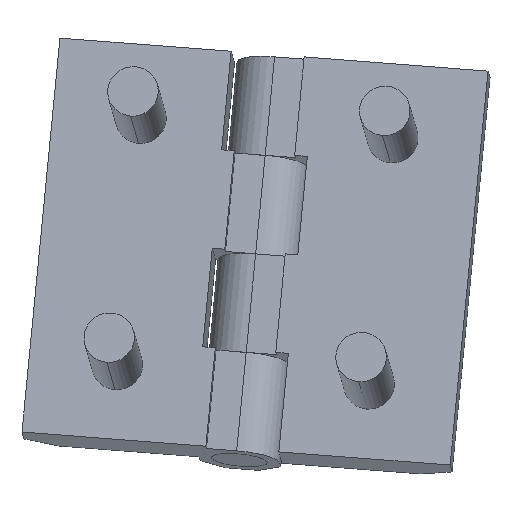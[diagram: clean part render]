
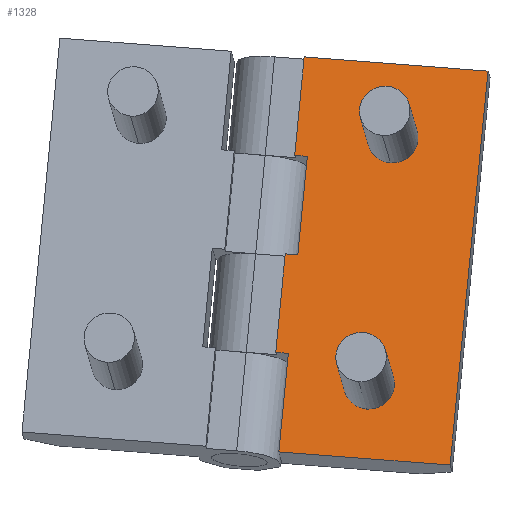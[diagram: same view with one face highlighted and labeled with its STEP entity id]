
A CAD part, front view. The second image highlights one B-rep face of the part: STEP entity #1328.
In plain terms, the highlighted planar face has unit normal (-0.066, -0.972, 0.225) as drawn and (0, -1, 0) by its records, which use the part's own axes.
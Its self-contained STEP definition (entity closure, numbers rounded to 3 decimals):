
#14 = ORIENTED_EDGE ( 'NONE', *, *, #904, .F. ) ;
#26 = CARTESIAN_POINT ( 'NONE',  ( -20.78, -2.923, -30. ) ) ;
#49 = CARTESIAN_POINT ( 'NONE',  ( -12.03, -2.923, -22.5 ) ) ;
#60 = VERTEX_POINT ( 'NONE', #523 ) ;
#65 = FACE_BOUND ( 'NONE', #68, .T. ) ;
#68 = EDGE_LOOP ( 'NONE', ( #533, #1102 ) ) ;
#80 = CARTESIAN_POINT ( 'NONE',  ( -2.53, -2.923, 10. ) ) ;
#95 = LINE ( 'NONE', #578, #787 ) ;
#100 = CARTESIAN_POINT ( 'NONE',  ( -3.78, -2.923, 10. ) ) ;
#107 = LINE ( 'NONE', #698, #396 ) ;
#108 = CARTESIAN_POINT ( 'NONE',  ( -12.03, -2.923, 2.5 ) ) ;
#111 = VERTEX_POINT ( 'NONE', #26 ) ;
#128 = CARTESIAN_POINT ( 'NONE',  ( -20.78, -2.923, 10. ) ) ;
#140 = VECTOR ( 'NONE', #1101, 1000. ) ;
#177 = DIRECTION ( 'NONE',  ( 0., 0., -1. ) ) ;
#186 = VERTEX_POINT ( 'NONE', #1423 ) ;
#194 = VECTOR ( 'NONE', #659, 1000. ) ;
#197 = VERTEX_POINT ( 'NONE', #794 ) ;
#199 = VERTEX_POINT ( 'NONE', #819 ) ;
#210 = DIRECTION ( 'NONE',  ( 0., 0., -1. ) ) ;
#245 = LINE ( 'NONE', #1228, #451 ) ;
#249 = VERTEX_POINT ( 'NONE', #694 ) ;
#261 = VERTEX_POINT ( 'NONE', #1532 ) ;
#310 = DIRECTION ( 'NONE',  ( 1., 0., 0. ) ) ;
#355 = ORIENTED_EDGE ( 'NONE', *, *, #1198, .F. ) ;
#378 = EDGE_LOOP ( 'NONE', ( #986, #1393, #1502, #1598, #355, #463, #392, #1473, #410, #14 ) ) ;
#392 = ORIENTED_EDGE ( 'NONE', *, *, #964, .T. ) ;
#396 = VECTOR ( 'NONE', #713, 1000. ) ;
#410 = ORIENTED_EDGE ( 'NONE', *, *, #879, .F. ) ;
#448 = EDGE_CURVE ( 'NONE', #898, #1146, #888, .T. ) ;
#451 = VECTOR ( 'NONE', #900, 1000. ) ;
#452 = LINE ( 'NONE', #1043, #1169 ) ;
#460 = CARTESIAN_POINT ( 'NONE',  ( -3.78, -2.923, 10. ) ) ;
#463 = ORIENTED_EDGE ( 'NONE', *, *, #857, .F. ) ;
#464 = LINE ( 'NONE', #128, #140 ) ;
#501 = AXIS2_PLACEMENT_3D ( 'NONE', #1522, #1052, #1547 ) ;
#523 = CARTESIAN_POINT ( 'NONE',  ( -2.53, -2.923, -10. ) ) ;
#533 = ORIENTED_EDGE ( 'NONE', *, *, #835, .F. ) ;
#540 = EDGE_CURVE ( 'NONE', #199, #261, #1141, .T. ) ;
#557 = CIRCLE ( 'NONE', #1274, 2.5 ) ;
#575 = DIRECTION ( 'NONE',  ( 0., -1., 0. ) ) ;
#578 = CARTESIAN_POINT ( 'NONE',  ( -3.78, -2.923, -20. ) ) ;
#581 = VECTOR ( 'NONE', #1432, 1000. ) ;
#588 = CARTESIAN_POINT ( 'NONE',  ( -2.53, -2.923, 10. ) ) ;
#621 = VERTEX_POINT ( 'NONE', #1347 ) ;
#635 = CARTESIAN_POINT ( 'NONE',  ( -12.03, -2.923, -22.5 ) ) ;
#659 = DIRECTION ( 'NONE',  ( 0., 0., -1. ) ) ;
#680 = VERTEX_POINT ( 'NONE', #921 ) ;
#685 = AXIS2_PLACEMENT_3D ( 'NONE', #80, #575, #210 ) ;
#691 = ORIENTED_EDGE ( 'NONE', *, *, #448, .F. ) ;
#694 = CARTESIAN_POINT ( 'NONE',  ( -3.78, -2.923, -10. ) ) ;
#698 = CARTESIAN_POINT ( 'NONE',  ( -2.53, -2.923, -30. ) ) ;
#704 = DIRECTION ( 'NONE',  ( -1., 0., 0. ) ) ;
#713 = DIRECTION ( 'NONE',  ( -1., 0., 0. ) ) ;
#718 = DIRECTION ( 'NONE',  ( 0., 0., -1. ) ) ;
#739 = EDGE_CURVE ( 'NONE', #621, #60, #1039, .T. ) ;
#751 = EDGE_LOOP ( 'NONE', ( #691, #1459 ) ) ;
#787 = VECTOR ( 'NONE', #1211, 1000. ) ;
#789 = DIRECTION ( 'NONE',  ( 0., -1., 0. ) ) ;
#793 = EDGE_CURVE ( 'NONE', #1146, #898, #890, .T. ) ;
#794 = CARTESIAN_POINT ( 'NONE',  ( -2.53, -2.923, -20. ) ) ;
#812 = DIRECTION ( 'NONE',  ( 0., 0., -1. ) ) ;
#819 = CARTESIAN_POINT ( 'NONE',  ( -12.03, -2.923, -25. ) ) ;
#835 = EDGE_CURVE ( 'NONE', #261, #199, #557, .T. ) ;
#837 = AXIS2_PLACEMENT_3D ( 'NONE', #635, #1121, #1229 ) ;
#857 = EDGE_CURVE ( 'NONE', #937, #186, #1564, .T. ) ;
#872 = VERTEX_POINT ( 'NONE', #1310 ) ;
#879 = EDGE_CURVE ( 'NONE', #680, #111, #107, .T. ) ;
#881 = EDGE_CURVE ( 'NONE', #1032, #197, #95, .T. ) ;
#888 = CIRCLE ( 'NONE', #1296, 2.5 ) ;
#890 = CIRCLE ( 'NONE', #501, 2.5 ) ;
#898 = VERTEX_POINT ( 'NONE', #1553 ) ;
#900 = DIRECTION ( 'NONE',  ( -1., 0., 0. ) ) ;
#904 = EDGE_CURVE ( 'NONE', #197, #680, #960, .T. ) ;
#916 = FACE_OUTER_BOUND ( 'NONE', #378, .T. ) ;
#921 = CARTESIAN_POINT ( 'NONE',  ( -2.53, -2.923, -30. ) ) ;
#937 = VERTEX_POINT ( 'NONE', #100 ) ;
#960 = LINE ( 'NONE', #588, #1299 ) ;
#964 = EDGE_CURVE ( 'NONE', #937, #872, #1454, .T. ) ;
#966 = CARTESIAN_POINT ( 'NONE',  ( -2.53, -2.923, 10. ) ) ;
#986 = ORIENTED_EDGE ( 'NONE', *, *, #881, .F. ) ;
#1032 = VERTEX_POINT ( 'NONE', #1513 ) ;
#1039 = LINE ( 'NONE', #1529, #194 ) ;
#1043 = CARTESIAN_POINT ( 'NONE',  ( -3.78, -2.923, -10. ) ) ;
#1051 = FACE_BOUND ( 'NONE', #751, .T. ) ;
#1052 = DIRECTION ( 'NONE',  ( 0., -1., 0. ) ) ;
#1054 = CARTESIAN_POINT ( 'NONE',  ( -3.78, -2.923, 0. ) ) ;
#1061 = LINE ( 'NONE', #1054, #1377 ) ;
#1069 = DIRECTION ( 'NONE',  ( 0., 0., -1. ) ) ;
#1077 = EDGE_CURVE ( 'NONE', #60, #249, #245, .T. ) ;
#1101 = DIRECTION ( 'NONE',  ( 0., 0., -1. ) ) ;
#1102 = ORIENTED_EDGE ( 'NONE', *, *, #540, .F. ) ;
#1121 = DIRECTION ( 'NONE',  ( 0., -1., 0. ) ) ;
#1141 = CIRCLE ( 'NONE', #837, 2.5 ) ;
#1146 = VERTEX_POINT ( 'NONE', #1265 ) ;
#1169 = VECTOR ( 'NONE', #812, 1000. ) ;
#1189 = EDGE_CURVE ( 'NONE', #249, #1032, #452, .T. ) ;
#1198 = EDGE_CURVE ( 'NONE', #186, #621, #1061, .T. ) ;
#1211 = DIRECTION ( 'NONE',  ( 1., 0., 0. ) ) ;
#1228 = CARTESIAN_POINT ( 'NONE',  ( -3.78, -2.923, -10. ) ) ;
#1229 = DIRECTION ( 'NONE',  ( 0., 0., -1. ) ) ;
#1265 = CARTESIAN_POINT ( 'NONE',  ( -12.03, -2.923, 0. ) ) ;
#1274 = AXIS2_PLACEMENT_3D ( 'NONE', #49, #789, #177 ) ;
#1296 = AXIS2_PLACEMENT_3D ( 'NONE', #108, #1311, #1069 ) ;
#1297 = PLANE ( 'NONE',  #685 ) ;
#1299 = VECTOR ( 'NONE', #718, 1000. ) ;
#1310 = CARTESIAN_POINT ( 'NONE',  ( -20.78, -2.923, 10. ) ) ;
#1311 = DIRECTION ( 'NONE',  ( 0., -1., 0. ) ) ;
#1328 = ADVANCED_FACE ( 'NONE', ( #65, #1051, #916 ), #1297, .T. ) ;
#1347 = CARTESIAN_POINT ( 'NONE',  ( -2.53, -2.923, 0. ) ) ;
#1377 = VECTOR ( 'NONE', #310, 1000. ) ;
#1393 = ORIENTED_EDGE ( 'NONE', *, *, #1189, .F. ) ;
#1423 = CARTESIAN_POINT ( 'NONE',  ( -3.78, -2.923, 0. ) ) ;
#1432 = DIRECTION ( 'NONE',  ( 0., 0., -1. ) ) ;
#1454 = LINE ( 'NONE', #966, #1479 ) ;
#1459 = ORIENTED_EDGE ( 'NONE', *, *, #793, .F. ) ;
#1468 = EDGE_CURVE ( 'NONE', #872, #111, #464, .T. ) ;
#1473 = ORIENTED_EDGE ( 'NONE', *, *, #1468, .T. ) ;
#1479 = VECTOR ( 'NONE', #704, 1000. ) ;
#1502 = ORIENTED_EDGE ( 'NONE', *, *, #1077, .F. ) ;
#1513 = CARTESIAN_POINT ( 'NONE',  ( -3.78, -2.923, -20. ) ) ;
#1522 = CARTESIAN_POINT ( 'NONE',  ( -12.03, -2.923, 2.5 ) ) ;
#1529 = CARTESIAN_POINT ( 'NONE',  ( -2.53, -2.923, 10. ) ) ;
#1532 = CARTESIAN_POINT ( 'NONE',  ( -12.03, -2.923, -20. ) ) ;
#1547 = DIRECTION ( 'NONE',  ( 0., 0., -1. ) ) ;
#1553 = CARTESIAN_POINT ( 'NONE',  ( -12.03, -2.923, 5. ) ) ;
#1564 = LINE ( 'NONE', #460, #581 ) ;
#1598 = ORIENTED_EDGE ( 'NONE', *, *, #739, .F. ) ;
